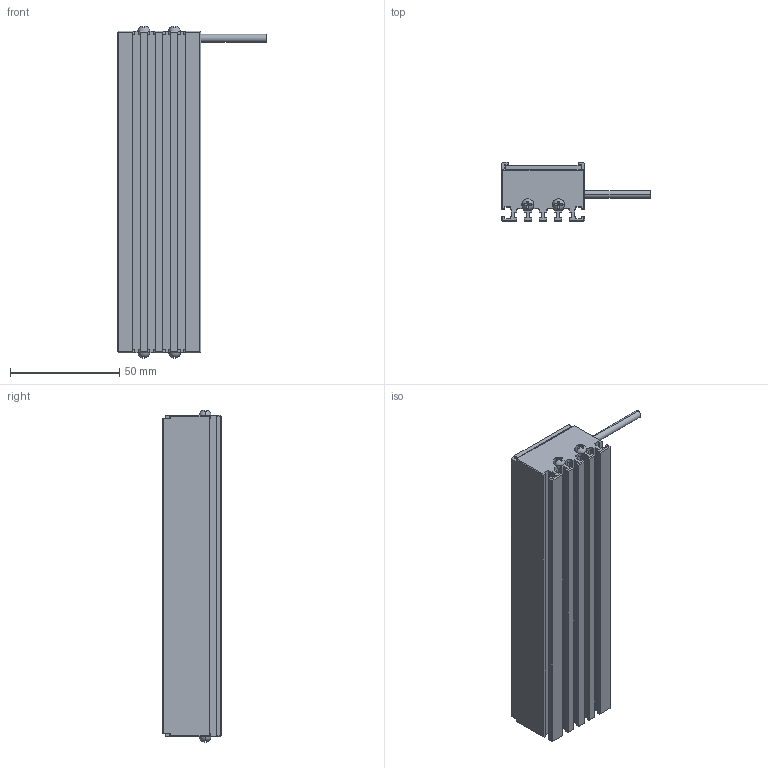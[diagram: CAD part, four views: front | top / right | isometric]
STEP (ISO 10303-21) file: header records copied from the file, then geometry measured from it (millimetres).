
FILE_DESCRIPTION((''),'2;1');
FILE_NAME('MV-LLDS-147-38_ASM','2020-12-29T',('Administrator'),(''),'PRO/ENGINEER BY PARAMETRIC TECHNOLOGY CORPORATION, 2010100','PRO/ENGINEER BY PARAMETRIC TECHNOLOGY CORPORATION, 2010100','');
FILE_SCHEMA(('CONFIG_CONTROL_DESIGN'));
Length unit declared in the file: millimetre
Products named in the file (3): BL-6_4_; M3-5_3; MV-LLDS-147-38_ASM
Assembly tree (5 placements, depth 2):
  MV-LLDS-147-38_ASM
    BL-6_4_
    M3-5_3  x4
Bounding box: 68 x 27 x 151.68 mm (x, y, z)
Volume: 123191.3 mm3; surface area: 37722.1 mm2
Topology: 5 solids, 13 shells, 349 faces, 934 edges, 604 vertices
Faces by surface type: plane 223, cylinder 78, cone 16, bspline 16, torus 8, sphere 8
Entity records: 8219 total; most frequent: CARTESIAN_POINT 1711, ORIENTED_EDGE 1338, DIRECTION 1310, EDGE_CURVE 679, VECTOR 514, LINE 514, VERTEX_POINT 445, AXIS2_PLACEMENT_3D 398
